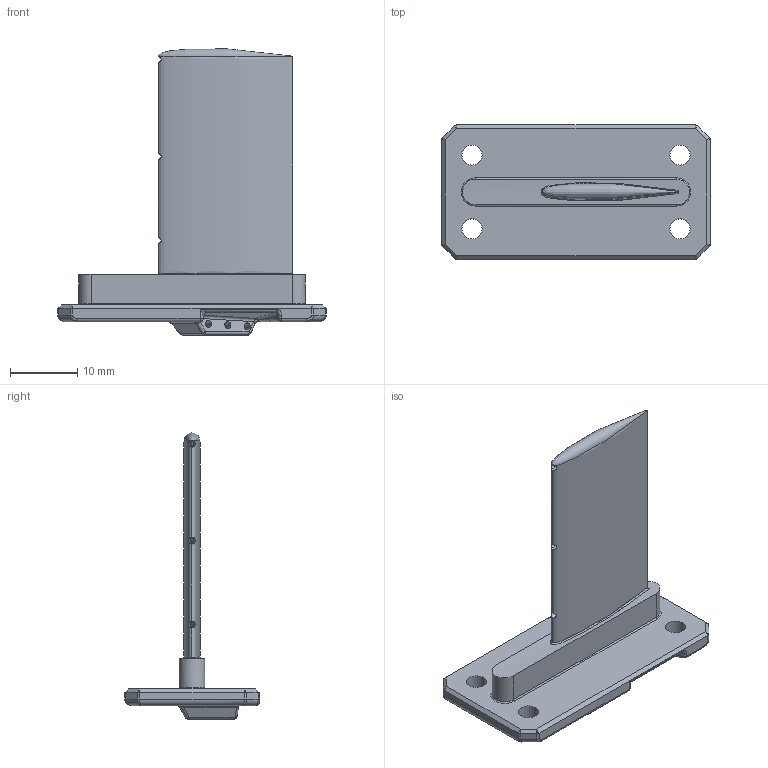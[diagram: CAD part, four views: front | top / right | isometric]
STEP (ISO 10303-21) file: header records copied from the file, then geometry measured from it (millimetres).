
FILE_DESCRIPTION(('CATIA V5 STEP Exchange','CAx-IF Rec.Pracs.--- Model Styling and Organization---1.5--- 2016-08-15','CAx-IF Rec.Pracs.---Supplemental Geometry---1.0---2011-11-01','CAx-IF Rec.Pracs.--- Composite Materials ---1.1---2010-07-15'),'2;1');
FILE_NAME('W:\8-25-003 RENOVATION DEBITMETRE PHI100 A S3\CATIA\Etude\S3MA-8-25003-1007--_PEIGNE_3_PRISES_GSP.stp','2026-02-06T08:58:51+00:00',('none'),('none'),'CATIA Version 5-6 Release 2020 SP6 HF13','CATIA V5 STEP AP214 v2','none');
FILE_SCHEMA(('AUTOMOTIVE_DESIGN { 1 0 10303 214 1 1 1 1 }'));
Length unit declared in the file: millimetre
Products named in the file (1): S3MA-8-25003-1007--_PEIGNE_3_PRISES_GSP
Bounding box: 40 x 20 x 42.65 mm (x, y, z)
Volume: 3600.9 mm3; surface area: 3774.1 mm2
Topology: 1 solids, 1 shells, 182 faces, 425 edges, 230 vertices
Faces by surface type: cylinder 75, plane 32, bspline 30, torus 20, cone 14, sphere 8, extrusion 2, revolution 1
Entity records: 12017 total; most frequent: CARTESIAN_POINT 8459, ORIENTED_EDGE 816, DIRECTION 527, EDGE_CURVE 408, AXIS2_PLACEMENT_3D 246, VERTEX_POINT 230, EDGE_LOOP 198, ADVANCED_FACE 182
